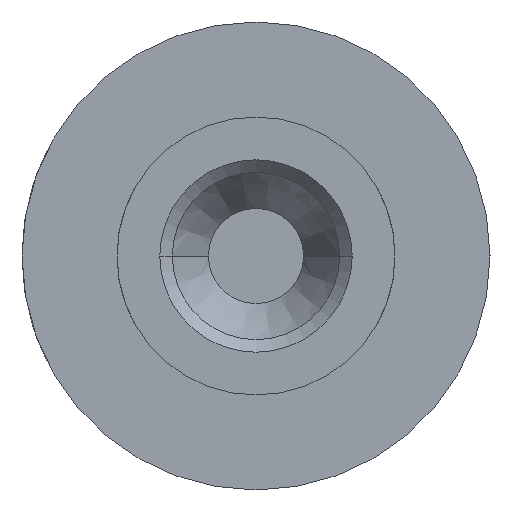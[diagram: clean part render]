
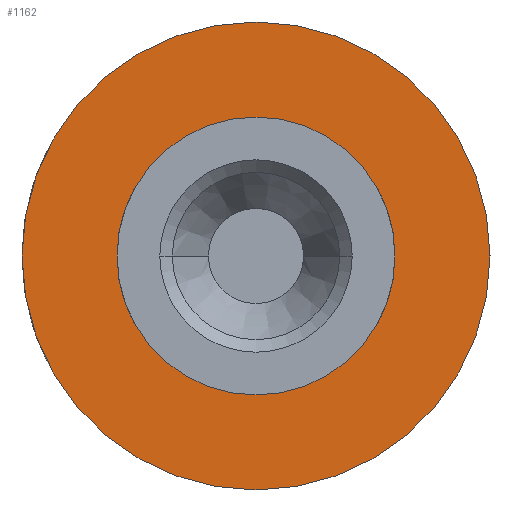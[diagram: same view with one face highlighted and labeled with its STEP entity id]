
A CAD part, left-side view. The second image highlights one B-rep face of the part: STEP entity #1162.
In plain terms, the highlighted planar face has unit normal (-1, 0, 0).
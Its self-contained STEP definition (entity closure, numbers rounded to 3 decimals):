
#24 = VERTEX_POINT ( 'NONE', #728 ) ;
#122 = DIRECTION ( 'NONE',  ( 1., 0., 0. ) ) ;
#136 = AXIS2_PLACEMENT_3D ( 'NONE', #1032, #1524, #1502 ) ;
#137 = VERTEX_POINT ( 'NONE', #1537 ) ;
#304 = EDGE_LOOP ( 'NONE', ( #638, #368 ) ) ;
#306 = VERTEX_POINT ( 'NONE', #1147 ) ;
#338 = CIRCLE ( 'NONE', #580, 16. ) ;
#368 = ORIENTED_EDGE ( 'NONE', *, *, #1548, .T. ) ;
#442 = CARTESIAN_POINT ( 'NONE',  ( 22., 12.75, 0. ) ) ;
#462 = DIRECTION ( 'NONE',  ( -1., 0., 0. ) ) ;
#501 = DIRECTION ( 'NONE',  ( 1., 0., 0. ) ) ;
#514 = EDGE_CURVE ( 'NONE', #137, #24, #1889, .T. ) ;
#531 = DIRECTION ( 'NONE',  ( 0., 1., 0. ) ) ;
#551 = ORIENTED_EDGE ( 'NONE', *, *, #1591, .F. ) ;
#580 = AXIS2_PLACEMENT_3D ( 'NONE', #730, #725, #919 ) ;
#585 = CARTESIAN_POINT ( 'NONE',  ( 22., 0., 0. ) ) ;
#638 = ORIENTED_EDGE ( 'NONE', *, *, #514, .T. ) ;
#725 = DIRECTION ( 'NONE',  ( 1., 0., 0. ) ) ;
#728 = CARTESIAN_POINT ( 'NONE',  ( 22., -9.5, 0. ) ) ;
#730 = CARTESIAN_POINT ( 'NONE',  ( 22., 0., 0. ) ) ;
#740 = CIRCLE ( 'NONE', #1559, 16. ) ;
#764 = DIRECTION ( 'NONE',  ( 0., 0., 1. ) ) ;
#919 = DIRECTION ( 'NONE',  ( 0., 1., 0. ) ) ;
#1009 = CIRCLE ( 'NONE', #136, 9.5 ) ;
#1032 = CARTESIAN_POINT ( 'NONE',  ( 22., 0., 0. ) ) ;
#1129 = EDGE_CURVE ( 'NONE', #306, #1282, #338, .T. ) ;
#1146 = EDGE_LOOP ( 'NONE', ( #1862, #551 ) ) ;
#1147 = CARTESIAN_POINT ( 'NONE',  ( 22., 16., 0. ) ) ;
#1162 = ADVANCED_FACE ( 'NONE', ( #1499, #1863 ), #2067, .T. ) ;
#1282 = VERTEX_POINT ( 'NONE', #1624 ) ;
#1336 = AXIS2_PLACEMENT_3D ( 'NONE', #442, #462, #764 ) ;
#1499 = FACE_OUTER_BOUND ( 'NONE', #1146, .T. ) ;
#1502 = DIRECTION ( 'NONE',  ( 0., 1., 0. ) ) ;
#1524 = DIRECTION ( 'NONE',  ( 1., 0., 0. ) ) ;
#1537 = CARTESIAN_POINT ( 'NONE',  ( 22., 9.5, 0. ) ) ;
#1548 = EDGE_CURVE ( 'NONE', #24, #137, #1009, .T. ) ;
#1559 = AXIS2_PLACEMENT_3D ( 'NONE', #1989, #501, #531 ) ;
#1569 = DIRECTION ( 'NONE',  ( 0., 1., 0. ) ) ;
#1591 = EDGE_CURVE ( 'NONE', #1282, #306, #740, .T. ) ;
#1624 = CARTESIAN_POINT ( 'NONE',  ( 22., -16., 0. ) ) ;
#1862 = ORIENTED_EDGE ( 'NONE', *, *, #1129, .F. ) ;
#1863 = FACE_BOUND ( 'NONE', #304, .T. ) ;
#1889 = CIRCLE ( 'NONE', #2020, 9.5 ) ;
#1989 = CARTESIAN_POINT ( 'NONE',  ( 22., 0., 0. ) ) ;
#2020 = AXIS2_PLACEMENT_3D ( 'NONE', #585, #122, #1569 ) ;
#2067 = PLANE ( 'NONE',  #1336 ) ;
